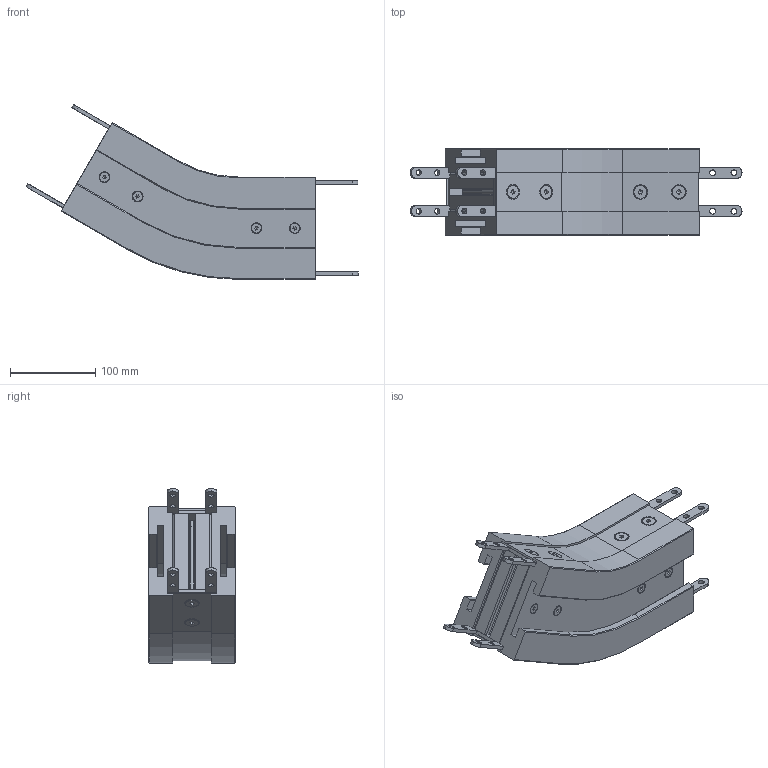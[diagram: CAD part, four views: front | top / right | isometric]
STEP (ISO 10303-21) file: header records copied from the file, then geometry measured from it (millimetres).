
FILE_DESCRIPTION (( 'STEP AP203' ), '1' );
FILE_NAME ('2000.450.430.STEP', '2015-04-15T13:01:57', ( '' ), ( '' ), 'SwSTEP 2.0', 'SolidWorks 2012', '' );
FILE_SCHEMA (( 'CONFIG_CONTROL_DESIGN' ));
Products named in the file (1): 2000.450.430
Bounding box: 388.99 x 101 x 204.86 mm (x, y, z)
Volume: 1700232.7 mm3; surface area: 569991 mm2
Topology: 26 solids, 26 shells, 2506 faces, 6586 edges, 4116 vertices
Faces by surface type: cone 1084, cylinder 814, plane 576, torus 32
Entity records: 77845 total; most frequent: DIRECTION 14872, CARTESIAN_POINT 13177, ORIENTED_EDGE 13108, EDGE_CURVE 6554, AXIS2_PLACEMENT_3D 5811, VERTEX_POINT 4116, CIRCLE 3304, LINE 3250
